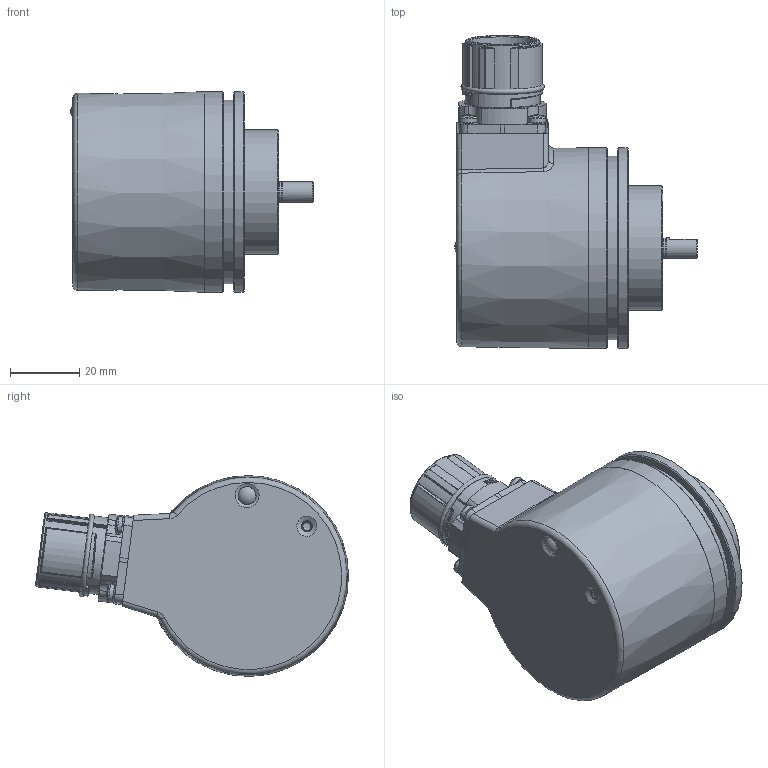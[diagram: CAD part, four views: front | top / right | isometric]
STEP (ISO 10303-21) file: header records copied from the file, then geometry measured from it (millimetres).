
FILE_DESCRIPTION (( 'STEP AP214' ), '1' );
FILE_NAME ('8.F5863.11X4.XXXX.STEP', '2014-10-02T06:07:59', ( 'HeirlerN' ), ( 'Microsoft' ), 'SwSTEP 2.0', 'SolidWorks 2013', '' );
FILE_SCHEMA (( 'AUTOMOTIVE_DESIGN' ));
Length unit declared in the file: millimetre
Products named in the file (1): 8.F5863.11X4.XXXX
Bounding box: 70.1 x 90.44 x 58 mm (x, y, z)
Surface area: 24331.6 mm2 (no closed solid volume)
Topology: 0 solids, 24 shells, 356 faces, 938 edges, 576 vertices
Faces by surface type: cylinder 136, plane 115, bspline 31, torus 28, sphere 25, cone 21
Full cylindrical faces by diameter (mm): 0.5 x12, 1.2 x11, 2.5 x3, 3.2 x1, 3.3 x3, 5 x4, 5.1 x1, 5.2 x1, 5.8 x1, 6 x1, 10 x1, 17 x1, 21.6 x2, 26 x1, 28 x1, 36 x1, 53 x1, 58 x2
Entity records: 15080 total; most frequent: CARTESIAN_POINT 3061, DIRECTION 1773, ORIENTED_EDGE 1456, EDGE_CURVE 805, AXIS2_PLACEMENT_3D 748, VERTEX_POINT 549, EDGE_LOOP 488, CIRCLE 422
